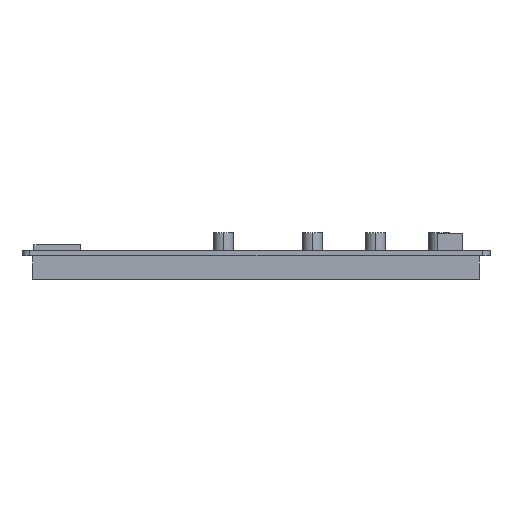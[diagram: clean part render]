
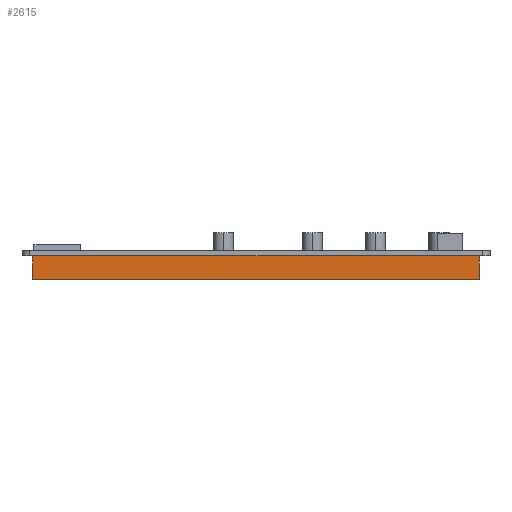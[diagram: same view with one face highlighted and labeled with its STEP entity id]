
A CAD part, left-side view. The second image highlights one B-rep face of the part: STEP entity #2615.
In plain terms, the highlighted planar face has unit normal (-1, 0, 0).
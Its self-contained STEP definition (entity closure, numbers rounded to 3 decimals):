
#766=DIRECTION('',(0.,1.,0.));
#767=VECTOR('',#766,67.089);
#768=CARTESIAN_POINT('',(1765.828,1745.863,-1.6));
#769=LINE('',#768,#767);
#796=DIRECTION('',(0.,1.,0.));
#797=VECTOR('',#796,67.345);
#798=CARTESIAN_POINT('',(1765.828,1820.518,-1.6));
#799=LINE('',#798,#797);
#1027=DIRECTION('',(0.,0.,-1.));
#1028=VECTOR('',#1027,7.5);
#1029=CARTESIAN_POINT('',(1765.828,1887.863,-1.6));
#1030=LINE('',#1029,#1028);
#1034=DIRECTION('',(0.,0.,-1.));
#1035=VECTOR('',#1034,7.5);
#1036=CARTESIAN_POINT('',(1765.828,1745.863,-1.6));
#1037=LINE('',#1036,#1035);
#1062=DIRECTION('',(0.,1.,0.));
#1063=VECTOR('',#1062,142.);
#1064=CARTESIAN_POINT('',(1765.828,1745.863,-9.1));
#1065=LINE('',#1064,#1063);
#1160=DIRECTION('',(0.,1.,0.));
#1161=VECTOR('',#1160,7.567);
#1162=CARTESIAN_POINT('',(1765.828,1812.952,-1.6));
#1163=LINE('',#1162,#1161);
#1756=CARTESIAN_POINT('',(1765.828,1745.863,-9.1));
#1757=VERTEX_POINT('',#1756);
#1758=CARTESIAN_POINT('',(1765.828,1887.863,-9.1));
#1759=VERTEX_POINT('',#1758);
#1764=CARTESIAN_POINT('',(1765.828,1745.863,-1.6));
#1765=VERTEX_POINT('',#1764);
#1766=CARTESIAN_POINT('',(1765.828,1812.952,-1.6));
#1767=VERTEX_POINT('',#1766);
#1768=CARTESIAN_POINT('',(1765.828,1820.518,-1.6));
#1769=CARTESIAN_POINT('',(1765.828,1887.863,-1.6));
#1770=VERTEX_POINT('',#1768);
#1771=VERTEX_POINT('',#1769);
#2599=CARTESIAN_POINT('',(1765.828,1745.863,-1.6));
#2600=DIRECTION('',(-1.,0.,0.));
#2601=DIRECTION('',(0.,1.,0.));
#2602=AXIS2_PLACEMENT_3D('',#2599,#2600,#2601);
#2603=PLANE('',#2602);
#2604=ORIENTED_EDGE('',*,*,#2165,.F.);
#2606=ORIENTED_EDGE('',*,*,#2605,.T.);
#2608=ORIENTED_EDGE('',*,*,#2607,.T.);
#2609=ORIENTED_EDGE('',*,*,#2591,.F.);
#2610=ORIENTED_EDGE('',*,*,#2173,.F.);
#2612=ORIENTED_EDGE('',*,*,#2611,.F.);
#2613=EDGE_LOOP('',(#2604,#2606,#2608,#2609,#2610,#2612));
#2614=FACE_OUTER_BOUND('',#2613,.F.);
#2165=EDGE_CURVE('',#1765,#1767,#769,.T.);
#2173=EDGE_CURVE('',#1770,#1771,#799,.T.);
#2591=EDGE_CURVE('',#1771,#1759,#1030,.T.);
#2605=EDGE_CURVE('',#1765,#1757,#1037,.T.);
#2607=EDGE_CURVE('',#1757,#1759,#1065,.T.);
#2611=EDGE_CURVE('',#1767,#1770,#1163,.T.);
#2615=ADVANCED_FACE('',(#2614),#2603,.T.);
